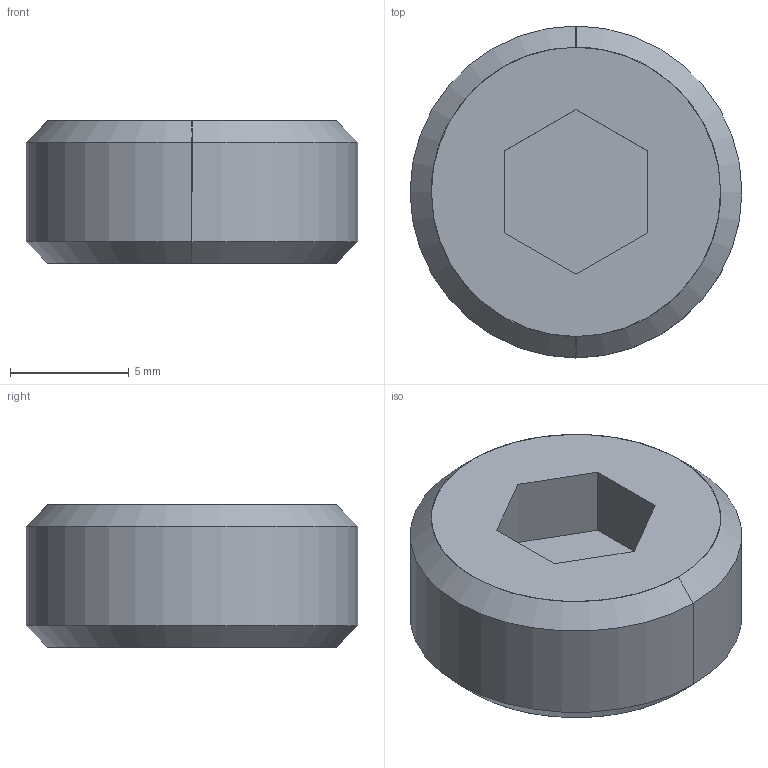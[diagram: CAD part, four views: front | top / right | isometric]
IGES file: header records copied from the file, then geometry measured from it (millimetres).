
Global section: file name: E:\UnigraphicsGraphicData\MISUMI_PRESS-PARTS\IGES\3d_msws14-6_00521_r00.igs; native system: NX V5.0; preprocessor: UGS NX IGES V5.0; author: MISUMI; date: 20110105.161525; units: millimetre
Bounding box: 14 x 14 x 6 mm (x, y, z)
Surface area: 586.4 mm2 (no closed solid volume)
Topology: 0 solids, 0 shells, 15 faces, 76 edges, 76 vertices
Faces by surface type: bspline 15
